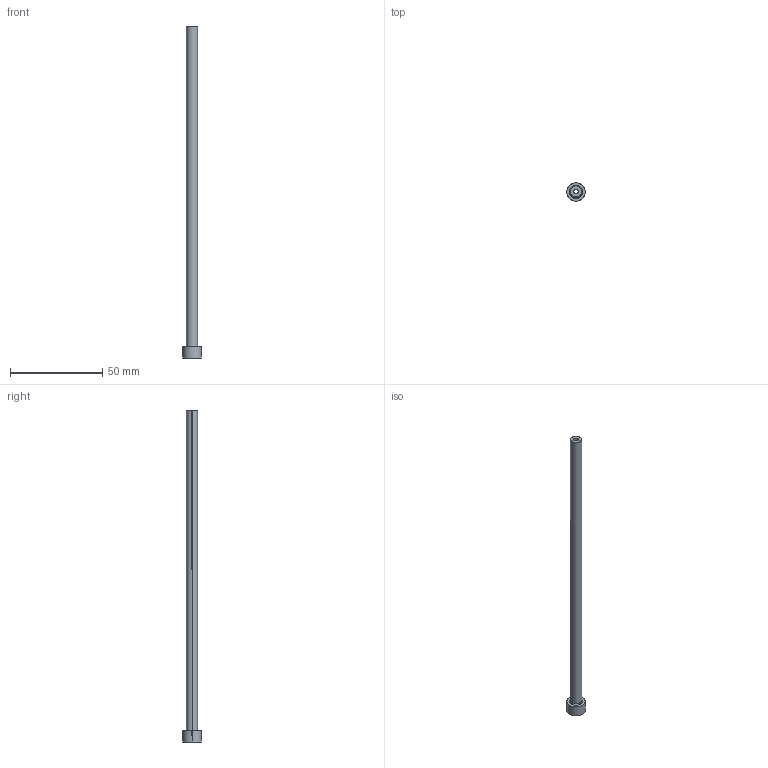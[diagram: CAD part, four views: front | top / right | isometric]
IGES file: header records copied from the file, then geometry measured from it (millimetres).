
Start section: SolidWorks IGES file using analytic representation for surfaces
Global section: file name: D:\Ref Drgs\JES Sleeve\25-45_180\JES-25-6-180\JES-25-6-180.IGS; native system: SolidWorks 2017; preprocessor: SolidWorks 2017; author: RK; date: 170624.141340; units: millimetre
Bounding box: 10 x 10 x 180 mm (x, y, z)
Surface area: 5185.9 mm2 (no closed solid volume)
Topology: 0 solids, 0 shells, 17 faces, 248 edges, 248 vertices
Faces by surface type: revolution 12, bspline 5
